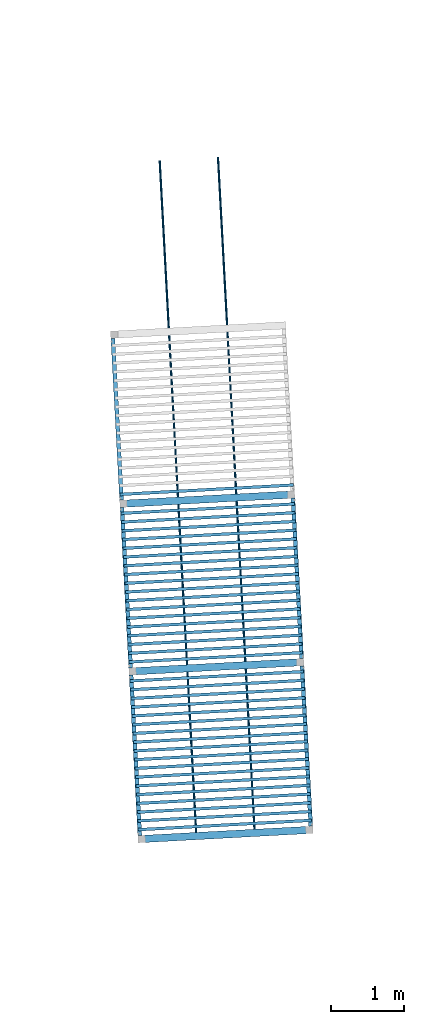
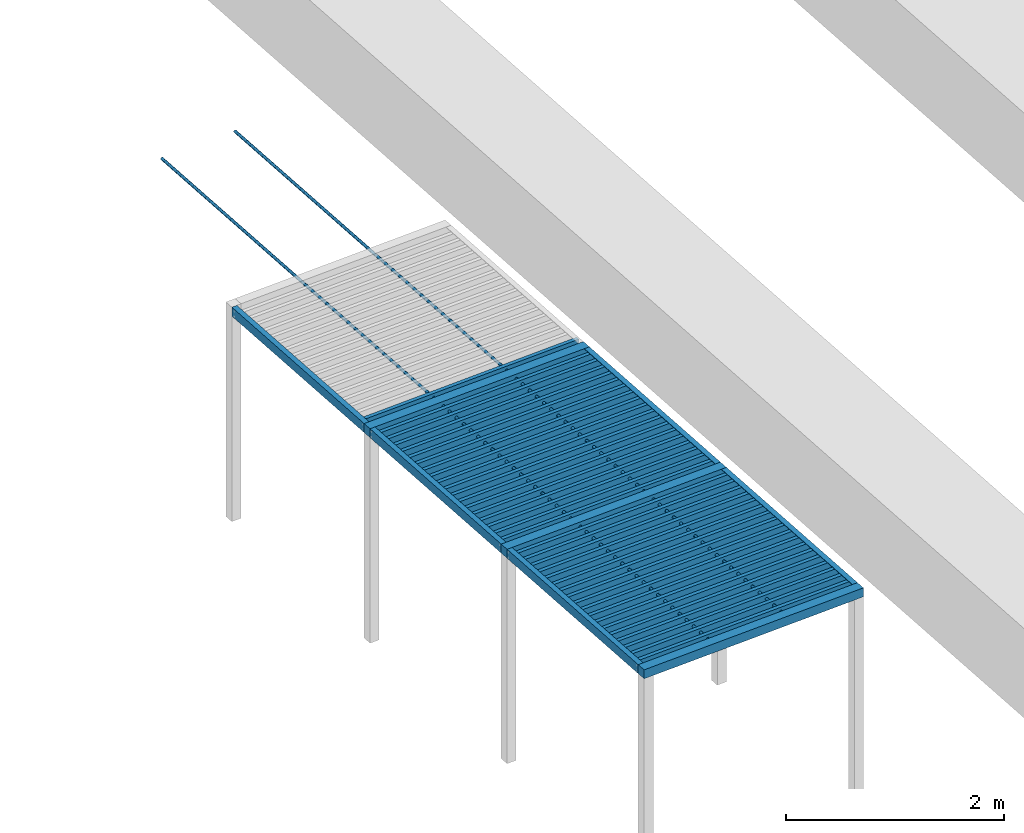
# One storey, part 2 of 438: 47 beams.
"""IFC2X3 building model written with IfcOpenShell, lengths in millimetres."""

from ifc_helpers import new_model, entity, si_unit, converted_unit, derived_unit, direction, frame, frame_2d, origin, origin_2d_with_axis, place, context, subcontext, project, spatial, polyline, rectangle, circle, outline, extrude, material, type_object, element, save


model = new_model("IFC2X3")

# Units and contexts
model_context = context("Model", 3, precision=0.01, world=origin(), true_north=direction((6.123031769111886e-17, 1.0)))
body_context = subcontext(model_context, "Body", "Model", "MODEL_VIEW")
ifc_project = project(units=[si_unit("LENGTHUNIT", "METRE", prefix="MILLI"), si_unit("AREAUNIT", "SQUARE_METRE"), si_unit("VOLUMEUNIT", "CUBIC_METRE"), converted_unit("PLANEANGLEUNIT", "DEGREE", entity("IfcRatioMeasure", 0.017453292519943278), si_unit("PLANEANGLEUNIT", "RADIAN"), dimensions=[0, 0, 0, 0, 0, 0, 0]), si_unit("MASSUNIT", "GRAM", prefix="KILO"), derived_unit("MASSDENSITYUNIT", [(si_unit("MASSUNIT", "GRAM", prefix="KILO"), 1), (si_unit("LENGTHUNIT", "METRE"), -3)]), derived_unit("MOMENTOFINERTIAUNIT", [(si_unit("LENGTHUNIT", "METRE"), 4)]), si_unit("TIMEUNIT", "SECOND"), si_unit("FREQUENCYUNIT", "HERTZ"), si_unit("THERMODYNAMICTEMPERATUREUNIT", "DEGREE_CELSIUS"), derived_unit("THERMALTRANSMITTANCEUNIT", [(si_unit("MASSUNIT", "GRAM", prefix="KILO"), 1), (si_unit("THERMODYNAMICTEMPERATUREUNIT", "KELVIN"), -1), (si_unit("TIMEUNIT", "SECOND"), -3)]), derived_unit("THERMALCONDUCTANCEUNIT", [(si_unit("MASSUNIT", "GRAM", prefix="KILO"), 1), (si_unit("LENGTHUNIT", "METRE"), 1), (si_unit("THERMODYNAMICTEMPERATUREUNIT", "KELVIN"), -1), (si_unit("TIMEUNIT", "SECOND"), -3)]), derived_unit("VOLUMETRICFLOWRATEUNIT", [(si_unit("LENGTHUNIT", "METRE"), 3), (si_unit("TIMEUNIT", "SECOND"), -1)]), derived_unit("MASSFLOWRATEUNIT", [(si_unit("MASSUNIT", "GRAM", prefix="KILO"), 1), (si_unit("TIMEUNIT", "SECOND"), -1)]), derived_unit("ROTATIONALFREQUENCYUNIT", [(si_unit("TIMEUNIT", "SECOND"), -1)]), si_unit("ELECTRICCURRENTUNIT", "AMPERE"), si_unit("ELECTRICVOLTAGEUNIT", "VOLT"), si_unit("POWERUNIT", "WATT"), converted_unit("FORCEUNIT", "KIP", entity("IfcRatioMeasure", 2.088543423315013e-05), si_unit("FORCEUNIT", "NEWTON"), dimensions=[1, 1, -2, 0, 0, 0, 0]), si_unit("ILLUMINANCEUNIT", "LUX"), si_unit("LUMINOUSFLUXUNIT", "LUMEN"), si_unit("LUMINOUSINTENSITYUNIT", "CANDELA"), derived_unit("USERDEFINED", [(si_unit("MASSUNIT", "GRAM", prefix="KILO"), -1), (si_unit("LENGTHUNIT", "METRE"), -2), (si_unit("TIMEUNIT", "SECOND"), 3), (si_unit("LUMINOUSFLUXUNIT", "LUMEN"), 1)]), derived_unit("USERDEFINED", [(si_unit("MASSUNIT", "GRAM", prefix="KILO"), 1), (si_unit("LENGTHUNIT", "METRE"), 3), (si_unit("TIMEUNIT", "SECOND"), -3), (si_unit("ELECTRICCURRENTUNIT", "AMPERE"), -2)]), derived_unit("USERDEFINED", [(si_unit("LENGTHUNIT", "METRE"), 2), (si_unit("TIMEUNIT", "SECOND"), -2)]), derived_unit("SOUNDPOWERUNIT", [(si_unit("MASSUNIT", "GRAM", prefix="KILO"), 1), (si_unit("LENGTHUNIT", "METRE"), 2), (si_unit("TIMEUNIT", "SECOND"), -3)]), derived_unit("SOUNDPRESSUREUNIT", [(si_unit("MASSUNIT", "GRAM", prefix="KILO"), 1), (si_unit("LENGTHUNIT", "METRE"), -1), (si_unit("TIMEUNIT", "SECOND"), -2)]), derived_unit("LINEARVELOCITYUNIT", [(si_unit("LENGTHUNIT", "METRE"), 1), (si_unit("TIMEUNIT", "SECOND"), -1)]), si_unit("PRESSUREUNIT", "PASCAL"), derived_unit("USERDEFINED", [(si_unit("LENGTHUNIT", "METRE"), -2), (si_unit("MASSUNIT", "GRAM", prefix="KILO"), 1), (si_unit("TIMEUNIT", "SECOND"), -2)]), derived_unit("LINEARFORCEUNIT", [(si_unit("MASSUNIT", "GRAM", prefix="KILO"), 1), (si_unit("LENGTHUNIT", "METRE"), 1), (si_unit("TIMEUNIT", "SECOND"), -2), (si_unit("LENGTHUNIT", "METRE"), -1)]), derived_unit("PLANARFORCEUNIT", [(si_unit("MASSUNIT", "GRAM", prefix="KILO"), 1), (si_unit("LENGTHUNIT", "METRE"), 1), (si_unit("TIMEUNIT", "SECOND"), -2), (si_unit("LENGTHUNIT", "METRE"), -2)]), derived_unit("SPECIFICHEATCAPACITYUNIT", [(si_unit("LENGTHUNIT", "METRE"), 2), (si_unit("TIMEUNIT", "SECOND"), -2), (si_unit("THERMODYNAMICTEMPERATUREUNIT", "KELVIN"), -1)]), derived_unit("VAPORPERMEABILITYUNIT", [(si_unit("TIMEUNIT", "SECOND"), 1), (si_unit("LENGTHUNIT", "METRE"), -1)]), derived_unit("DYNAMICVISCOSITYUNIT", [(si_unit("MASSUNIT", "GRAM", prefix="KILO"), 1), (si_unit("LENGTHUNIT", "METRE"), -1), (si_unit("TIMEUNIT", "SECOND"), -1)]), derived_unit("THERMALEXPANSIONCOEFFICIENTUNIT", [(si_unit("THERMODYNAMICTEMPERATUREUNIT", "KELVIN"), -1)])], contexts=[model_context])

# Site, building, storey
site_placement = place(None, frame((0.0, 0.0, 0.0), z_axis=(0.0, 0.0, 1.0), x_axis=(0.8191520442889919, 0.5735764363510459, 0.0)))
site = spatial("IfcSite", under=ifc_project, at=site_placement, Name="Default", CompositionType="ELEMENT")
building_placement = place(site_placement, origin())
building = spatial("IfcBuilding", under=site, at=building_placement, CompositionType="ELEMENT")
storey_placement = place(building_placement, origin())
storey = spatial("IfcBuildingStorey", under=building, at=storey_placement, Name="PLAN", CompositionType="ELEMENT", Elevation=0.0)

# Beams
ifc_material_1 = material(Name="Wd Siding Dark color 01")
beam_type_1 = type_object("IfcBeamType", Name="Beam-124 342651:Beam-124 342651", PredefinedType="NOTDEFINED")
beam_1_placement = place(storey_placement, origin())
element("IfcBeam", 1, at=beam_1_placement, inside=storey, type_object=beam_type_1, material=ifc_material_1, Name="Beam-124", ObjectType="Beam-124 342651:Beam-124 342651", context=body_context, shape_type="SweptSolid", body=[
    extrude(rectangle(XDim=89.99999999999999, YDim=40.000000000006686, at=frame_2d((-1.0786038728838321e-11, 0.0), x_axis=(0.0, 1.0))), frame((-20923.894124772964, 88439.01644244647, 350.0), z_axis=(0.849040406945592, -0.528327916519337, 0.0), x_axis=(-0.528327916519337, -0.849040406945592, 0.0)), (0.0, 0.0, 1.0), 2379.999999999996),
])
beam_2_placement = place(storey_placement, origin())
element("IfcBeam", 2, at=beam_2_placement, inside=storey, type_object=beam_type_1, material=ifc_material_1, Name="Beam-124", ObjectType="Beam-124 342651:Beam-124 342651", context=body_context, shape_type="SweptSolid", body=[
    extrude(rectangle(XDim=89.99999999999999, YDim=40.000000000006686, at=frame_2d((8.498091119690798e-12, 0.0), x_axis=(0.0, 1.0))), frame((-21240.890874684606, 87929.59219827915, 350.0), z_axis=(0.849040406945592, -0.528327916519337, 0.0), x_axis=(-0.528327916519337, -0.849040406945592, 0.0)), (0.0, 0.0, 1.0), 2379.9999999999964),
])
beam_3_placement = place(storey_placement, origin())
element("IfcBeam", 3, at=beam_3_placement, inside=storey, type_object=beam_type_1, material=ifc_material_1, Name="Beam-124", ObjectType="Beam-124 342651:Beam-124 342651", context=body_context, shape_type="SweptSolid", body=[
    extrude(rectangle(XDim=89.99999999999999, YDim=40.000000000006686, at=frame_2d((-1.0786038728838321e-11, 0.0), x_axis=(0.0, 1.0))), frame((-21378.256132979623, 87708.8416924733, 350.0), z_axis=(0.849040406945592, -0.528327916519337, 0.0), x_axis=(-0.528327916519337, -0.849040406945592, 0.0)), (0.0, 0.0, 1.0), 2379.999999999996),
])
beam_4_placement = place(storey_placement, origin())
element("IfcBeam", 4, at=beam_4_placement, inside=storey, type_object=beam_type_1, material=ifc_material_1, Name="Beam-124", ObjectType="Beam-124 342651:Beam-124 342651", context=body_context, shape_type="SweptSolid", body=[
    extrude(rectangle(XDim=89.99999999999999, YDim=40.000000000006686, at=frame_2d((-8.498091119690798e-12, 0.0), x_axis=(0.0, 1.0))), frame((-21177.49152470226, 88031.4770471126, 350.0), z_axis=(0.849040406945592, -0.528327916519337, 0.0), x_axis=(-0.528327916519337, -0.849040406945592, 0.0)), (0.0, 0.0, 1.0), 2379.999999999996),
])
beam_5_placement = place(storey_placement, origin())
element("IfcBeam", 5, at=beam_5_placement, inside=storey, type_object=beam_type_1, material=ifc_material_1, Name="Beam-124", ObjectType="Beam-124 342651:Beam-124 342651", context=body_context, shape_type="SweptSolid", body=[
    extrude(rectangle(XDim=89.99999999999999, YDim=40.000000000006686, at=frame_2d((8.498091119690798e-12, 0.0), x_axis=(0.0, 1.0))), frame((-21114.092174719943, 88133.36189594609, 350.0), z_axis=(0.849040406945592, -0.528327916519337, 0.0), x_axis=(-0.528327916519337, -0.849040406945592, 0.0)), (0.0, 0.0, 1.0), 2379.999999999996),
])
beam_6_placement = place(storey_placement, origin())
element("IfcBeam", 6, at=beam_6_placement, inside=storey, type_object=beam_type_1, material=ifc_material_1, Name="Beam-124", ObjectType="Beam-124 342651:Beam-124 342651", context=body_context, shape_type="SweptSolid", body=[
    extrude(rectangle(XDim=89.99999999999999, YDim=40.000000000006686, at=frame_2d((1.0786038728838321e-11, 0.0), x_axis=(0.0, 1.0))), frame((-21050.69282473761, 88235.24674477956, 350.0), z_axis=(0.849040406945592, -0.528327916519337, 0.0), x_axis=(-0.528327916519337, -0.849040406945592, 0.0)), (0.0, 0.0, 1.0), 2379.9999999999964),
])
beam_7_placement = place(storey_placement, origin())
element("IfcBeam", 7, at=beam_7_placement, inside=storey, type_object=beam_type_1, material=ifc_material_1, Name="Beam-124", ObjectType="Beam-124 342651:Beam-124 342651", context=body_context, shape_type="SweptSolid", body=[
    extrude(rectangle(XDim=89.99999999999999, YDim=40.000000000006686, at=frame_2d((-8.498091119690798e-12, 0.0), x_axis=(0.0, 1.0))), frame((-20860.49477479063, 88540.90129127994, 350.0), z_axis=(0.849040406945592, -0.528327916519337, 0.0), x_axis=(-0.528327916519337, -0.849040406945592, 0.0)), (0.0, 0.0, 1.0), 2379.999999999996),
])
beam_8_placement = place(storey_placement, origin())
element("IfcBeam", 8, at=beam_8_placement, inside=storey, type_object=beam_type_1, material=ifc_material_1, Name="Beam-124", ObjectType="Beam-124 342651:Beam-124 342651", context=body_context, shape_type="SweptSolid", body=[
    extrude(rectangle(XDim=89.99999999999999, YDim=40.000000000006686, at=frame_2d((8.498091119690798e-12, 0.0), x_axis=(0.0, 1.0))), frame((-20987.293474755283, 88337.13159361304, 350.0), z_axis=(0.849040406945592, -0.528327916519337, 0.0), x_axis=(-0.528327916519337, -0.849040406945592, 0.0)), (0.0, 0.0, 1.0), 2379.999999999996),
])
beam_9_placement = place(storey_placement, origin())
element("IfcBeam", 9, at=beam_9_placement, inside=storey, type_object=beam_type_1, material=ifc_material_1, Name="Beam-124", ObjectType="Beam-124 342651:Beam-124 342651", context=body_context, shape_type="SweptSolid", body=[
    extrude(rectangle(XDim=89.99999999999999, YDim=40.000000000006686, at=frame_2d((-1.0786038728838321e-11, 0.0), x_axis=(0.0, 1.0))), frame((-20733.696074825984, 88744.67098894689, 350.0), z_axis=(0.849040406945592, -0.528327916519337, 0.0), x_axis=(-0.528327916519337, -0.849040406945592, 0.0)), (0.0, 0.0, 1.0), 2379.999999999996),
])
beam_10_placement = place(storey_placement, origin())
element("IfcBeam", 10, at=beam_10_placement, inside=storey, type_object=beam_type_1, material=ifc_material_1, Name="Beam-124", ObjectType="Beam-124 342651:Beam-124 342651", context=body_context, shape_type="SweptSolid", body=[
    extrude(rectangle(XDim=89.99999999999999, YDim=40.000000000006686, at=frame_2d((-8.498091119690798e-12, 0.0), x_axis=(0.0, 1.0))), frame((-20797.095424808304, 88642.78614011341, 350.0), z_axis=(0.849040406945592, -0.528327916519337, 0.0), x_axis=(-0.528327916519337, -0.849040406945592, 0.0)), (0.0, 0.0, 1.0), 2379.9999999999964),
])
beam_11_placement = place(storey_placement, origin())
element("IfcBeam", 11, at=beam_11_placement, inside=storey, type_object=beam_type_1, material=ifc_material_1, Name="Beam-124", ObjectType="Beam-124 342651:Beam-124 342651", context=body_context, shape_type="SweptSolid", body=[
    extrude(rectangle(XDim=89.99999999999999, YDim=40.000000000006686, at=frame_2d((-8.498091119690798e-12, 0.0), x_axis=(0.0, 1.0))), frame((-20416.69932491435, 89254.09523311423, 350.0), z_axis=(0.849040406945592, -0.528327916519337, 0.0), x_axis=(-0.528327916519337, -0.849040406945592, 0.0)), (0.0, 0.0, 1.0), 2379.9999999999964),
])
beam_12_placement = place(storey_placement, origin())
element("IfcBeam", 12, at=beam_12_placement, inside=storey, type_object=beam_type_1, material=ifc_material_1, Name="Beam-124", ObjectType="Beam-124 342651:Beam-124 342651", context=body_context, shape_type="SweptSolid", body=[
    extrude(rectangle(XDim=89.99999999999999, YDim=40.000000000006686, at=frame_2d((8.498091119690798e-12, 0.0), x_axis=(0.0, 1.0))), frame((-20670.296724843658, 88846.55583778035, 350.0), z_axis=(0.849040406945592, -0.528327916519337, 0.0), x_axis=(-0.528327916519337, -0.849040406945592, 0.0)), (0.0, 0.0, 1.0), 2379.999999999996),
])
beam_13_placement = place(storey_placement, origin())
element("IfcBeam", 13, at=beam_13_placement, inside=storey, type_object=beam_type_1, material=ifc_material_1, Name="Beam-124", ObjectType="Beam-124 342651:Beam-124 342651", context=body_context, shape_type="SweptSolid", body=[
    extrude(rectangle(XDim=89.99999999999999, YDim=40.000000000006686, at=frame_2d((1.0786038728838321e-11, 0.0), x_axis=(0.0, 1.0))), frame((-20606.89737486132, 88948.44068661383, 350.0), z_axis=(0.849040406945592, -0.528327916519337, 0.0), x_axis=(-0.528327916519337, -0.849040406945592, 0.0)), (0.0, 0.0, 1.0), 2379.9999999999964),
])
beam_14_placement = place(storey_placement, origin())
element("IfcBeam", 14, at=beam_14_placement, inside=storey, type_object=beam_type_1, material=ifc_material_1, Name="Beam-124", ObjectType="Beam-124 342651:Beam-124 342651", context=body_context, shape_type="SweptSolid", body=[
    extrude(rectangle(XDim=89.99999999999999, YDim=40.000000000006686, at=frame_2d((1.0786038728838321e-11, 0.0), x_axis=(0.0, 1.0))), frame((-20543.498024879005, 89050.3255354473, 350.0), z_axis=(0.849040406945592, -0.528327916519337, 0.0), x_axis=(-0.528327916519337, -0.849040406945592, 0.0)), (0.0, 0.0, 1.0), 2379.999999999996),
])
beam_15_placement = place(storey_placement, origin())
element("IfcBeam", 15, at=beam_15_placement, inside=storey, type_object=beam_type_1, material=ifc_material_1, Name="Beam-124", ObjectType="Beam-124 342651:Beam-124 342651", context=body_context, shape_type="SweptSolid", body=[
    extrude(rectangle(XDim=89.99999999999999, YDim=40.000000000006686, at=frame_2d((8.498091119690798e-12, 0.0), x_axis=(0.0, 1.0))), frame((-20480.098674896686, 89152.21038428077, 350.0), z_axis=(0.849040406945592, -0.528327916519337, 0.0), x_axis=(-0.528327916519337, -0.849040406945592, 0.0)), (0.0, 0.0, 1.0), 2379.999999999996),
])
beam_16_placement = place(storey_placement, origin())
element("IfcBeam", 16, at=beam_16_placement, inside=storey, type_object=beam_type_1, material=ifc_material_1, Name="Beam-124", ObjectType="Beam-124 342651:Beam-124 342651", context=body_context, shape_type="SweptSolid", body=[
    extrude(rectangle(XDim=89.99999999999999, YDim=40.000000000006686, at=frame_2d((1.0786038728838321e-11, 0.0), x_axis=(0.0, 1.0))), frame((-20226.50127496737, 89559.74977961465, 350.0), z_axis=(0.849040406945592, -0.528327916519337, 0.0), x_axis=(-0.528327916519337, -0.849040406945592, 0.0)), (0.0, 0.0, 1.0), 2379.9999999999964),
])
beam_17_placement = place(storey_placement, origin())
element("IfcBeam", 17, at=beam_17_placement, inside=storey, type_object=beam_type_1, material=ifc_material_1, Name="Beam-124", ObjectType="Beam-124 342651:Beam-124 342651", context=body_context, shape_type="SweptSolid", body=[
    extrude(rectangle(XDim=89.99999999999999, YDim=40.000000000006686, at=frame_2d((8.498091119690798e-12, 0.0), x_axis=(0.0, 1.0))), frame((-20289.900624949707, 89457.86493078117, 350.0), z_axis=(0.849040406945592, -0.528327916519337, 0.0), x_axis=(-0.528327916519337, -0.849040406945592, 0.0)), (0.0, 0.0, 1.0), 2379.999999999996),
])
beam_18_placement = place(storey_placement, origin())
element("IfcBeam", 18, at=beam_18_placement, inside=storey, type_object=beam_type_1, material=ifc_material_1, Name="Beam-124", ObjectType="Beam-124 342651:Beam-124 342651", context=body_context, shape_type="SweptSolid", body=[
    extrude(rectangle(XDim=89.99999999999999, YDim=40.000000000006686, at=frame_2d((-8.498091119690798e-12, 0.0), x_axis=(0.0, 1.0))), frame((-20025.73666669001, 89882.38513425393, 350.0), z_axis=(0.849040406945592, -0.528327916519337, 0.0), x_axis=(-0.528327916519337, -0.849040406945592, 0.0)), (0.0, 0.0, 1.0), 2379.999999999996),
])
beam_19_placement = place(storey_placement, origin())
element("IfcBeam", 19, at=beam_19_placement, inside=storey, type_object=beam_type_1, material=ifc_material_1, Name="Beam-124", ObjectType="Beam-124 342651:Beam-124 342651", context=body_context, shape_type="SweptSolid", body=[
    extrude(rectangle(XDim=89.99999999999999, YDim=40.000000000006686, at=frame_2d((8.498091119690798e-12, 0.0), x_axis=(0.0, 1.0))), frame((-20163.101924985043, 89661.63462844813, 350.0), z_axis=(0.849040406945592, -0.528327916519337, 0.0), x_axis=(-0.528327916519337, -0.849040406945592, 0.0)), (0.0, 0.0, 1.0), 2379.999999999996),
])
beam_20_placement = place(storey_placement, origin())
element("IfcBeam", 20, at=beam_20_placement, inside=storey, type_object=beam_type_1, material=ifc_material_1, Name="Beam-124", ObjectType="Beam-124 342651:Beam-124 342651", context=body_context, shape_type="SweptSolid", body=[
    extrude(rectangle(XDim=89.99999999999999, YDim=40.000000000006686, at=frame_2d((8.498091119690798e-12, 0.0), x_axis=(0.0, 1.0))), frame((-20353.299974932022, 89355.98008194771, 350.0), z_axis=(0.849040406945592, -0.528327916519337, 0.0), x_axis=(-0.528327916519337, -0.849040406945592, 0.0)), (0.0, 0.0, 1.0), 2379.9999999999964),
])
beam_21_placement = place(storey_placement, origin())
element("IfcBeam", 21, at=beam_21_placement, inside=storey, type_object=beam_type_1, material=ifc_material_1, Name="Beam-124", ObjectType="Beam-124 342651:Beam-124 342651", context=body_context, shape_type="SweptSolid", body=[
    extrude(rectangle(XDim=89.99999999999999, YDim=40.000000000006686, at=frame_2d((1.0786038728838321e-11, 0.0), x_axis=(0.0, 1.0))), frame((-21505.05483294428, 87505.07199480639, 350.0), z_axis=(0.849040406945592, -0.528327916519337, 0.0), x_axis=(-0.528327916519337, -0.849040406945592, 0.0)), (0.0, 0.0, 1.0), 2379.9999999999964),
])
beam_22_placement = place(storey_placement, origin())
element("IfcBeam", 22, at=beam_22_placement, inside=storey, type_object=beam_type_1, material=ifc_material_1, Name="Beam-124", ObjectType="Beam-124 342651:Beam-124 342651", context=body_context, shape_type="SweptSolid", body=[
    extrude(rectangle(XDim=89.99999999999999, YDim=40.000000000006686, at=frame_2d((8.498091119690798e-12, 0.0), x_axis=(0.0, 1.0))), frame((-21885.450932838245, 86893.76290180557, 350.0), z_axis=(0.849040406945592, -0.528327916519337, 0.0), x_axis=(-0.528327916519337, -0.849040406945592, 0.0)), (0.0, 0.0, 1.0), 2379.9999999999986),
])
beam_23_placement = place(storey_placement, origin())
element("IfcBeam", 23, at=beam_23_placement, inside=storey, type_object=beam_type_1, material=ifc_material_1, Name="Beam-124", ObjectType="Beam-124 342651:Beam-124 342651", context=body_context, shape_type="SweptSolid", body=[
    extrude(rectangle(XDim=89.99999999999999, YDim=40.000000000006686, at=frame_2d((-1.0786038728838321e-11, 0.0), x_axis=(0.0, 1.0))), frame((-22329.246382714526, 86180.56895997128, 350.0), z_axis=(0.849040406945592, -0.528327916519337, 0.0), x_axis=(-0.528327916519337, -0.849040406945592, 0.0)), (0.0, 0.0, 1.0), 2379.9999999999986),
])
beam_24_placement = place(storey_placement, origin())
element("IfcBeam", 24, at=beam_24_placement, inside=storey, type_object=beam_type_1, material=ifc_material_1, Name="Beam-124", ObjectType="Beam-124 342651:Beam-124 342651", context=body_context, shape_type="SweptSolid", body=[
    extrude(rectangle(XDim=89.99999999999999, YDim=40.000000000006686, at=frame_2d((1.0786038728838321e-11, 0.0), x_axis=(0.0, 1.0))), frame((-22012.24963280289, 86689.99320413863, 350.0), z_axis=(0.849040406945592, -0.528327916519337, 0.0), x_axis=(-0.528327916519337, -0.849040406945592, 0.0)), (0.0, 0.0, 1.0), 2380.0000000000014),
])
beam_25_placement = place(storey_placement, origin())
element("IfcBeam", 25, at=beam_25_placement, inside=storey, type_object=beam_type_1, material=ifc_material_1, Name="Beam-124", ObjectType="Beam-124 342651:Beam-124 342651", context=body_context, shape_type="SweptSolid", body=[
    extrude(rectangle(XDim=89.99999999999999, YDim=40.000000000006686, at=frame_2d((-8.498091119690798e-12, 0.0), x_axis=(0.0, 1.0))), frame((-21631.85353290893, 87301.30229713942, 350.0), z_axis=(0.849040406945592, -0.528327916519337, 0.0), x_axis=(-0.528327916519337, -0.849040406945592, 0.0)), (0.0, 0.0, 1.0), 2379.9999999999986),
])
beam_26_placement = place(storey_placement, origin())
element("IfcBeam", 26, at=beam_26_placement, inside=storey, type_object=beam_type_1, material=ifc_material_1, Name="Beam-124", ObjectType="Beam-124 342651:Beam-124 342651", context=body_context, shape_type="SweptSolid", body=[
    extrude(rectangle(XDim=89.99999999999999, YDim=40.000000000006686, at=frame_2d((1.0786038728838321e-11, 0.0), x_axis=(0.0, 1.0))), frame((-22202.447682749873, 86384.33865763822, 350.0), z_axis=(0.849040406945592, -0.528327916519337, 0.0), x_axis=(-0.528327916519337, -0.849040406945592, 0.0)), (0.0, 0.0, 1.0), 2380.0000000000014),
])
beam_27_placement = place(storey_placement, origin())
element("IfcBeam", 27, at=beam_27_placement, inside=storey, type_object=beam_type_1, material=ifc_material_1, Name="Beam-124", ObjectType="Beam-124 342651:Beam-124 342651", context=body_context, shape_type="SweptSolid", body=[
    extrude(rectangle(XDim=89.99999999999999, YDim=40.000000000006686, at=frame_2d((8.498091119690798e-12, 0.0), x_axis=(0.0, 1.0))), frame((-21695.25288289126, 87199.41744830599, 350.0), z_axis=(0.849040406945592, -0.528327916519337, 0.0), x_axis=(-0.528327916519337, -0.849040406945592, 0.0)), (0.0, 0.0, 1.0), 2379.9999999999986),
])
beam_28_placement = place(storey_placement, origin())
element("IfcBeam", 28, at=beam_28_placement, inside=storey, type_object=beam_type_1, material=ifc_material_1, Name="Beam-124", ObjectType="Beam-124 342651:Beam-124 342651", context=body_context, shape_type="SweptSolid", body=[
    extrude(rectangle(XDim=89.99999999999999, YDim=40.000000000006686, at=frame_2d((-1.0786038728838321e-11, 0.0), x_axis=(0.0, 1.0))), frame((-22075.648982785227, 86588.10835530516, 350.0), z_axis=(0.849040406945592, -0.528327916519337, 0.0), x_axis=(-0.528327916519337, -0.849040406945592, 0.0)), (0.0, 0.0, 1.0), 2379.9999999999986),
])
beam_29_placement = place(storey_placement, origin())
element("IfcBeam", 29, at=beam_29_placement, inside=storey, type_object=beam_type_1, material=ifc_material_1, Name="Beam-124", ObjectType="Beam-124 342651:Beam-124 342651", context=body_context, shape_type="SweptSolid", body=[
    extrude(rectangle(XDim=89.99999999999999, YDim=40.000000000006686, at=frame_2d((-8.498091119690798e-12, 0.0), x_axis=(0.0, 1.0))), frame((-21441.65548296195, 87606.95684363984, 350.0), z_axis=(0.849040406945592, -0.528327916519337, 0.0), x_axis=(-0.528327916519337, -0.849040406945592, 0.0)), (0.0, 0.0, 1.0), 2379.9999999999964),
])
beam_30_placement = place(storey_placement, origin())
element("IfcBeam", 30, at=beam_30_placement, inside=storey, type_object=beam_type_1, material=ifc_material_1, Name="Beam-124", ObjectType="Beam-124 342651:Beam-124 342651", context=body_context, shape_type="SweptSolid", body=[
    extrude(rectangle(XDim=89.99999999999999, YDim=40.000000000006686, at=frame_2d((-8.498091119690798e-12, 0.0), x_axis=(0.0, 1.0))), frame((-21568.454182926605, 87403.18714597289, 350.0), z_axis=(0.849040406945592, -0.528327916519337, 0.0), x_axis=(-0.528327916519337, -0.849040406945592, 0.0)), (0.0, 0.0, 1.0), 2380.0000000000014),
])
beam_31_placement = place(storey_placement, origin())
element("IfcBeam", 31, at=beam_31_placement, inside=storey, type_object=beam_type_1, material=ifc_material_1, Name="Beam-124", ObjectType="Beam-124 342651:Beam-124 342651", context=body_context, shape_type="SweptSolid", body=[
    extrude(rectangle(XDim=89.99999999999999, YDim=40.000000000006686, at=frame_2d((8.498091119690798e-12, 0.0), x_axis=(0.0, 1.0))), frame((-21948.850282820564, 86791.8780529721, 350.0), z_axis=(0.849040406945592, -0.528327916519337, 0.0), x_axis=(-0.528327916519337, -0.849040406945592, 0.0)), (0.0, 0.0, 1.0), 2380.0000000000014),
])
beam_32_placement = place(storey_placement, origin())
element("IfcBeam", 32, at=beam_32_placement, inside=storey, type_object=beam_type_1, material=ifc_material_1, Name="Beam-124", ObjectType="Beam-124 342651:Beam-124 342651", context=body_context, shape_type="SweptSolid", body=[
    extrude(rectangle(XDim=89.99999999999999, YDim=40.000000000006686, at=frame_2d((-1.0786038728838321e-11, 0.0), x_axis=(0.0, 1.0))), frame((-22456.04508267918, 85976.79926230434, 350.0), z_axis=(0.849040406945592, -0.528327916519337, 0.0), x_axis=(-0.528327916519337, -0.849040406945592, 0.0)), (0.0, 0.0, 1.0), 2379.9999999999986),
])
beam_33_placement = place(storey_placement, origin())
element("IfcBeam", 33, at=beam_33_placement, inside=storey, type_object=beam_type_1, material=ifc_material_1, Name="Beam-124", ObjectType="Beam-124 342651:Beam-124 342651", context=body_context, shape_type="SweptSolid", body=[
    extrude(rectangle(XDim=89.99999999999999, YDim=40.000000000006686, at=frame_2d((8.498091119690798e-12, 0.0), x_axis=(0.0, 1.0))), frame((-22139.048332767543, 86486.2235064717, 350.0), z_axis=(0.849040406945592, -0.528327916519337, 0.0), x_axis=(-0.528327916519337, -0.849040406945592, 0.0)), (0.0, 0.0, 1.0), 2380.0000000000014),
])
beam_34_placement = place(storey_placement, origin())
element("IfcBeam", 34, at=beam_34_placement, inside=storey, type_object=beam_type_1, material=ifc_material_1, Name="Beam-124", ObjectType="Beam-124 342651:Beam-124 342651", context=body_context, shape_type="SweptSolid", body=[
    extrude(rectangle(XDim=89.99999999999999, YDim=40.000000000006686, at=frame_2d((1.0786038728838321e-11, 0.0), x_axis=(0.0, 1.0))), frame((-22265.8470327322, 86282.45380880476, 350.0), z_axis=(0.849040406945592, -0.528327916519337, 0.0), x_axis=(-0.528327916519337, -0.849040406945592, 0.0)), (0.0, 0.0, 1.0), 2380.0000000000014),
])
beam_35_placement = place(storey_placement, origin())
element("IfcBeam", 35, at=beam_35_placement, inside=storey, type_object=beam_type_1, material=ifc_material_1, Name="Beam-124", ObjectType="Beam-124 342651:Beam-124 342651", context=body_context, shape_type="SweptSolid", body=[
    extrude(rectangle(XDim=89.99999999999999, YDim=40.000000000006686, at=frame_2d((1.0786038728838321e-11, 0.0), x_axis=(0.0, 1.0))), frame((-21822.05158285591, 86995.64775063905, 350.0), z_axis=(0.849040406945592, -0.528327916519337, 0.0), x_axis=(-0.528327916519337, -0.849040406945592, 0.0)), (0.0, 0.0, 1.0), 2380.0000000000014),
])
beam_36_placement = place(storey_placement, origin())
element("IfcBeam", 36, at=beam_36_placement, inside=storey, type_object=beam_type_1, material=ifc_material_1, Name="Beam-124", ObjectType="Beam-124 342651:Beam-124 342651", context=body_context, shape_type="SweptSolid", body=[
    extrude(rectangle(XDim=89.99999999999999, YDim=40.000000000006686, at=frame_2d((-1.0786038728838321e-11, 0.0), x_axis=(0.0, 1.0))), frame((-22392.645732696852, 86078.6841111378, 350.0), z_axis=(0.849040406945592, -0.528327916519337, 0.0), x_axis=(-0.528327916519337, -0.849040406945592, 0.0)), (0.0, 0.0, 1.0), 2380.0000000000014),
])
beam_37_placement = place(storey_placement, origin())
element("IfcBeam", 37, at=beam_37_placement, inside=storey, type_object=beam_type_1, material=ifc_material_1, Name="Beam-124", ObjectType="Beam-124 342651:Beam-124 342651", context=body_context, shape_type="SweptSolid", body=[
    extrude(rectangle(XDim=89.99999999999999, YDim=40.000000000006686, at=frame_2d((-1.0786038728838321e-11, 0.0), x_axis=(0.0, 1.0))), frame((-21758.652232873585, 87097.53259947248, 350.0), z_axis=(0.849040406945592, -0.528327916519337, 0.0), x_axis=(-0.528327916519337, -0.849040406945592, 0.0)), (0.0, 0.0, 1.0), 2380.0000000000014),
])
ifc_material_2 = material(Name="Paint-02.3")
beam_type_2 = type_object("IfcBeamType", Name="Beam-124 342968:Beam-124 342968", PredefinedType="NOTDEFINED")
beam_38_placement = place(storey_placement, origin())
element("IfcBeam", 38, at=beam_38_placement, inside=storey, type_object=beam_type_2, material=ifc_material_2, Name="Beam-124", ObjectType="Beam-124 342968:Beam-124 342968", context=body_context, shape_type="SweptSolid", body=[
    extrude(circle(Radius=15.0, at=origin_2d_with_axis()), frame((-21201.16986060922, 84983.93060178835, 350.0), z_axis=(0.528327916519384, 0.8490404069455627, 0.0), x_axis=(0.0, 0.0, 1.0)), (0.0, 0.0, 1.0), 9320.000000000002),
])
beam_39_placement = place(storey_placement, origin())
element("IfcBeam", 39, at=beam_39_placement, inside=storey, type_object=beam_type_2, material=ifc_material_2, Name="Beam-124", ObjectType="Beam-124 342968:Beam-124 342968", context=body_context, shape_type="SweptSolid", body=[
    extrude(circle(Radius=15.0, at=origin_2d_with_axis()), frame((-21880.40218616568, 85406.59293500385, 350.0), z_axis=(0.5283279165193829, 0.8490404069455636, 0.0), x_axis=(0.0, 0.0, 1.0)), (0.0, 0.0, 1.0), 9320.000000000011),
])
ifc_material_3 = material(Name="Paint-02.1")
beam_type_3 = type_object("IfcBeamType", Name="Beam-124 342768:Beam-124 342768", PredefinedType="NOTDEFINED")
beam_40_placement = place(storey_placement, origin())
element("IfcBeam", 40, at=beam_40_placement, inside=storey, type_object=beam_type_3, material=ifc_material_3, Name="Beam-124", ObjectType="Beam-124 342768:Beam-124 342768", context=body_context, shape_type="SweptSolid", body=[
    extrude(rectangle(XDim=100.0, YDim=100.00000000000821, at=frame_2d((0.0, 1.1475265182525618e-12), x_axis=(1.0, 0.0))), frame((-22533.218115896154, 85871.70728856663, 350.0), z_axis=(0.8490404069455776, -0.5283279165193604, 0.0), x_axis=(0.0, 0.0, -1.0)), (0.0, 0.0, 1.0), 2400.000000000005),
])
beam_41_placement = place(storey_placement, origin())
element("IfcBeam", 41, at=beam_41_placement, inside=storey, type_object=beam_type_3, material=ifc_material_3, Name="Beam-124", ObjectType="Beam-124 342768:Beam-124 342768", context=body_context, shape_type="SweptSolid", body=[
    extrude(rectangle(XDim=100.0, YDim=100.00000000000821, at=frame_2d((0.0, -1.1475265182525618e-12), x_axis=(1.0, 0.0))), frame((-21318.06390790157, 87824.5002245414, 350.0), z_axis=(0.8490404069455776, -0.5283279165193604, 0.0), x_axis=(0.0, 0.0, -1.0)), (0.0, 0.0, 1.0), 2400.0000000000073),
])
beam_42_placement = place(storey_placement, origin())
element("IfcBeam", 42, at=beam_42_placement, inside=storey, type_object=beam_type_3, material=ifc_material_3, Name="Beam-124", ObjectType="Beam-124 342768:Beam-124 342768", context=body_context, shape_type="SweptSolid", body=[
    extrude(rectangle(XDim=100.0, YDim=100.00000000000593, at=origin_2d_with_axis()), frame((-20102.90969990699, 89777.29316051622, 350.0), z_axis=(0.849040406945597, -0.5283279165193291, 0.0), x_axis=(0.0, 0.0, -1.0)), (0.0, 0.0, 1.0), 2400.000000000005),
])
ifc_material_4 = material(Name="Paint-02.2")
beam_type_4 = type_object("IfcBeamType", Name="Beam-125 342678:Beam-125 342678", PredefinedType="NOTDEFINED")
beam_43_placement = place(storey_placement, origin())
element("IfcBeam", 43, at=beam_43_placement, inside=storey, type_object=beam_type_4, material=ifc_material_4, Name="Beam-125", ObjectType="Beam-125 342678:Beam-125 342678", context=body_context, shape_type="SweptSolid", body=[
    extrude(outline(polyline([(-50.0, -28.500000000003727), (50.0, -28.500000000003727), (50.0, 26.49999999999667), (46.0, 26.49999999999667), (46.0, -24.499999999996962), (-46.0, -24.499999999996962), (-46.0, 26.49999999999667), (-50.0, 26.49999999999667), (-50.0, -28.500000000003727)])), frame((-19278.1481870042, 86614.022590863, 350.0), z_axis=(0.5283279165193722, 0.84904040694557, 0.0), x_axis=(0.0, 0.0, -1.0)), (0.0, 0.0, 1.0), 2199.9999999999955),
])
beam_44_placement = place(storey_placement, origin())
element("IfcBeam", 44, at=beam_44_placement, inside=storey, type_object=beam_type_4, material=ifc_material_4, Name="Beam-125", ObjectType="Beam-125 342678:Beam-125 342678", context=body_context, shape_type="SweptSolid", body=[
    extrude(outline(polyline([(-50.0, -28.500000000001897), (50.0, -28.500000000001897), (50.0, 26.499999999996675), (46.0, 26.499999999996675), (46.0, -24.499999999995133), (-46.0, -24.499999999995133), (-46.0, 26.499999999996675), (-50.0, 26.499999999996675), (-50.0, -28.500000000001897)])), frame((-20493.30239499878, 84661.22965488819, 350.0), z_axis=(0.5283279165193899, 0.8490404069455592, 0.0), x_axis=(0.0, 0.0, -1.0)), (0.0, 0.0, 1.0), 2199.999999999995),
])
beam_type_5 = type_object("IfcBeamType", Name="Beam-125 342737:Beam-125 342737", PredefinedType="NOTDEFINED")
beam_45_placement = place(storey_placement, origin())
element("IfcBeam", 45, at=beam_45_placement, inside=storey, type_object=beam_type_5, material=ifc_material_4, Name="Beam-125", ObjectType="Beam-125 342737:Beam-125 342737", context=body_context, shape_type="SweptSolid", body=[
    extrude(outline(polyline([(-26.499999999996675, -50.0), (28.500000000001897, -50.0), (28.500000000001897, 50.0), (-26.499999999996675, 50.0), (-26.499999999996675, 46.0), (24.499999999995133, 46.0), (24.499999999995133, -46.0), (-26.499999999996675, -46.0), (-26.499999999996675, -50.0)])), frame((-21267.44986047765, 87851.8948992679, 350.0), z_axis=(0.5283279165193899, 0.8490404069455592, 0.0), x_axis=(-0.8490404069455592, 0.5283279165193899, 0.0)), (0.0, 0.0, 1.0), 2199.9999999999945),
])
beam_46_placement = place(storey_placement, origin())
element("IfcBeam", 46, at=beam_46_placement, inside=storey, type_object=beam_type_5, material=ifc_material_4, Name="Beam-125", ObjectType="Beam-125 342737:Beam-125 342737", context=body_context, shape_type="SweptSolid", body=[
    extrude(outline(polyline([(-26.499999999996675, -50.0), (28.500000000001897, -50.0), (28.500000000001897, 50.0), (-26.499999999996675, 50.0), (-26.499999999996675, 46.0), (24.499999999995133, 46.0), (24.499999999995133, -46.0), (-26.499999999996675, -46.0), (-26.499999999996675, -50.0)])), frame((-22482.604068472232, 85899.1019632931, 350.0), z_axis=(0.5283279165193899, 0.8490404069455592, 0.0), x_axis=(-0.8490404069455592, 0.5283279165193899, 0.0)), (0.0, 0.0, 1.0), 2199.999999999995),
])
beam_type_6 = type_object("IfcBeamType", Name="Beam-125 342828:Beam-125 342828", PredefinedType="NOTDEFINED")
beam_47_placement = place(storey_placement, origin())
element("IfcBeam", 47, at=beam_47_placement, inside=storey, type_object=beam_type_6, material=ifc_material_4, Name="Beam-125", ObjectType="Beam-125 342828:Beam-125 342828", context=body_context, shape_type="SweptSolid", body=[
    extrude(outline(polyline([(-26.499999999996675, -50.0), (28.500000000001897, -50.0), (28.500000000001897, 50.0), (-26.499999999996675, 50.0), (-26.499999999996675, 46.0), (24.499999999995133, 46.0), (24.499999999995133, -46.0), (-26.499999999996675, -46.0), (-26.499999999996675, -50.0)])), frame((-20052.295652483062, 89804.6878352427, 350.0), z_axis=(0.5283279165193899, 0.8490404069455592, 0.0), x_axis=(-0.8490404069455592, 0.5283279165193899, 0.0)), (0.0, 0.0, 1.0), 2220.000000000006),
])

save(model, "model.ifc")
